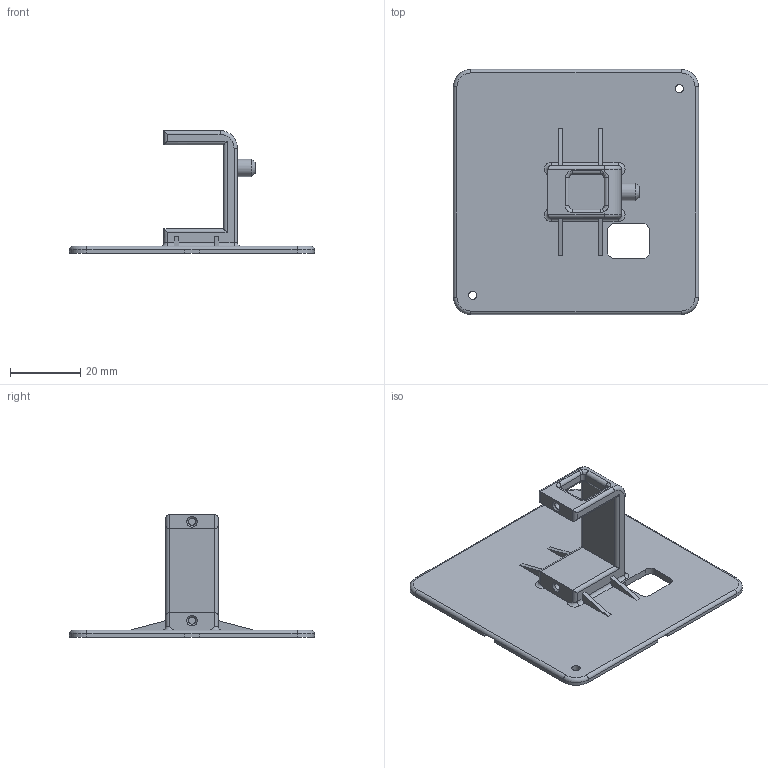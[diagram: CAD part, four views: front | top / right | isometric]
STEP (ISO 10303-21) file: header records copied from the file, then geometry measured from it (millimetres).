
FILE_DESCRIPTION(('Open CASCADE Model'),'2;1');
FILE_NAME('Open CASCADE Shape Model','2026-11-03T07:33:50',('Author'),( 'Open CASCADE'),'Open CASCADE STEP processor 7.9','Open CASCADE 7.9' ,'Unknown');
FILE_SCHEMA(('AUTOMOTIVE_DESIGN { 1 0 10303 214 1 1 1 1 }'));
Length unit declared in the file: millimetre
Products named in the file (1): Open CASCADE STEP translator 7.9 3
Bounding box: 70 x 70 x 35 mm (x, y, z)
Volume: 13274.4 mm3; surface area: 12143.3 mm2
Topology: 1 solids, 1 shells, 130 faces, 328 edges, 200 vertices
Faces by surface type: plane 57, cylinder 50, torus 18, cone 3, bspline 2
Full cylindrical faces by diameter (mm): 2 x2, 2.4 x2, 5 x1
Entity records: 8835 total; most frequent: CARTESIAN_POINT 2305, DIRECTION 1214, LINE 691, VECTOR 691, ORIENTED_EDGE 656, PCURVE 656, DEFINITIONAL_REPRESENTATION 656, EDGE_CURVE 328
